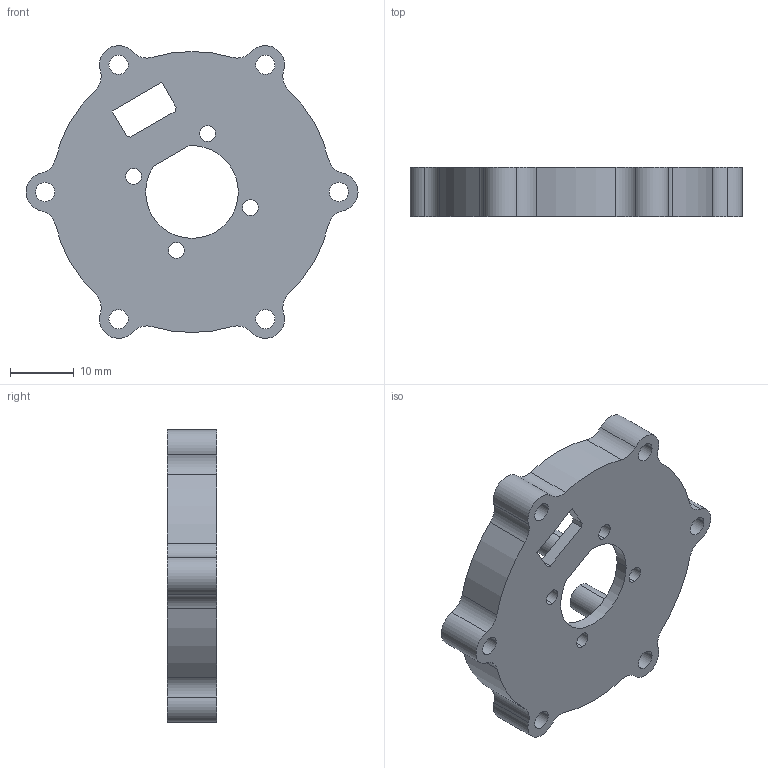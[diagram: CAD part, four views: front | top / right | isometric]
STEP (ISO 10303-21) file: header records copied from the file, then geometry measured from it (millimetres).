
FILE_DESCRIPTION (( 'STEP AP214' ), '1' );
FILE_NAME ('萇儂釱.STEP', '2026-02-02T11:57:08', ( 'JQW' ), ( '' ), 'SwSTEP 2.0', 'SolidWorks 2024', '' );
FILE_SCHEMA (( 'AUTOMOTIVE_DESIGN' ));
Length unit declared in the file: millimetre
Products named in the file (1): 电机座
Bounding box: 52 x 7.7 x 45.84 mm (x, y, z)
Volume: 5629.4 mm3; surface area: 5586.6 mm2
Topology: 1 solids, 1 shells, 74 faces, 199 edges, 132 vertices
Faces by surface type: cylinder 57, plane 14, cone 3
Entity records: 2456 total; most frequent: DIRECTION 467, CARTESIAN_POINT 406, ORIENTED_EDGE 398, EDGE_CURVE 199, AXIS2_PLACEMENT_3D 193, VERTEX_POINT 132, CIRCLE 118, EDGE_LOOP 103
